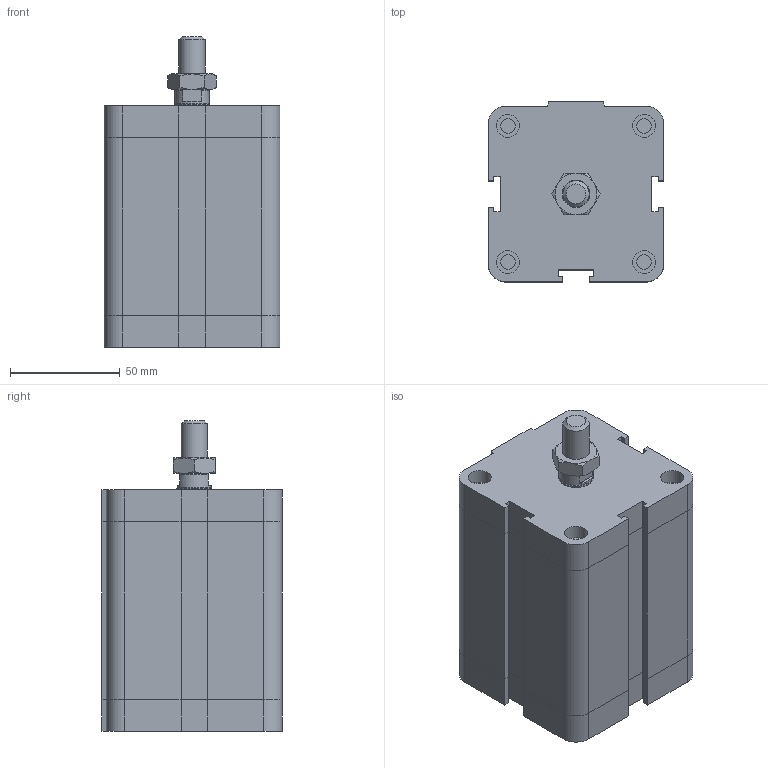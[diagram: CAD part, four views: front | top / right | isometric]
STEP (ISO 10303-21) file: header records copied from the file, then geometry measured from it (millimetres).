
FILE_DESCRIPTION((''),'2;1');
FILE_NAME('I:\Area Tecnica\Disegni\VARIE-3D\Componenti\EUROPE\15##_###_####_02_#\1581_63_0060_02_1.stp','2008-12-19T16:25:14',('rivolro1'),(''),'Autodesk Inventor 2009','Autodesk Inventor 2009','');
FILE_SCHEMA(('AUTOMOTIVE_DESIGN { 1 0 10303 214 1 1 1 1 }'));
Length unit declared in the file: millimetre
Products named in the file (4): 1581_63_0060_02_1; 1581_63_0060_01_1_C; 1561_63_0060_02_1_S; DBFM12
Assembly tree (3 placements, depth 2):
  1581_63_0060_02_1
    1581_63_0060_01_1_C
    1561_63_0060_02_1_S
    DBFM12
Bounding box: 80 x 82 x 141.5 mm (x, y, z)
Volume: 673686.7 mm3; surface area: 67767.4 mm2
Topology: 3 solids, 3 shells, 187 faces, 401 edges, 240 vertices
Faces by surface type: plane 121, bspline 24, cylinder 24, cone 18
Full cylindrical faces by diameter (mm): 6.647 x4, 10.5 x4, 10.8 x1, 12 x1, 15.6 x1, 16 x1
Entity records: 5080 total; most frequent: CARTESIAN_POINT 1096, DIRECTION 758, ORIENTED_EDGE 724, EDGE_CURVE 362, AXIS2_PLACEMENT_3D 254, VECTOR 250, LINE 250, EDGE_LOOP 238
